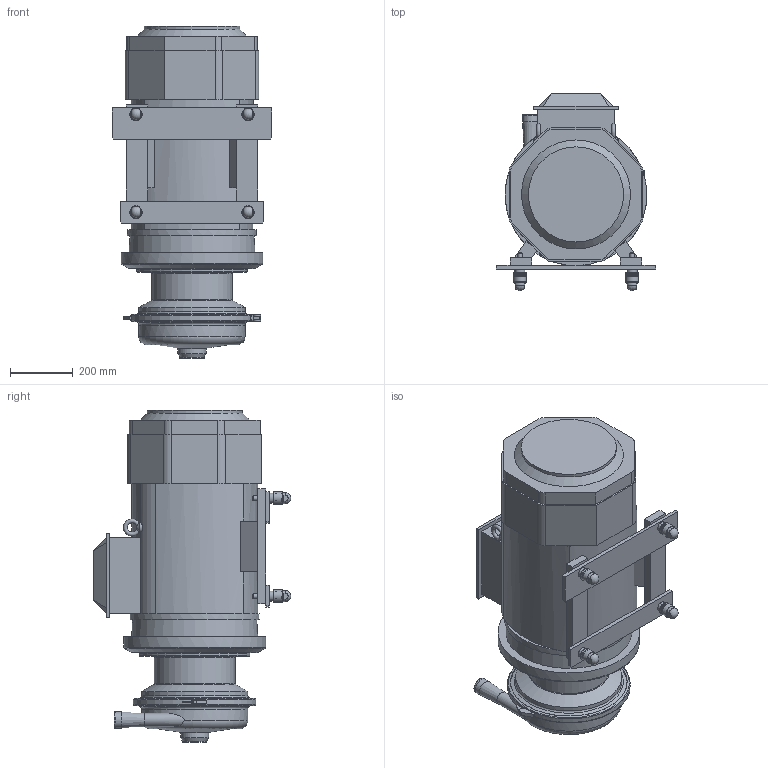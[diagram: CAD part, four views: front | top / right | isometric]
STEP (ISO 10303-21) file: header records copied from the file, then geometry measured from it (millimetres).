
FILE_DESCRIPTION((''),'2;1');
FILE_NAME('T:\_Engineering\Read Only\Products\Pumps\_W+_MODELS\# Pump_models\W+_models_assembly\W+_models_assembly\IPT\W+80-80_225(SMA2(D)-SMB2(D))_FRAME_NSRD_Shrinkwrap.ipt.step','2014-06-10T02:13:45',(''),(''),'Autodesk Inventor 2012','Autodesk Inventor 2012','');
FILE_SCHEMA(('CONFIG_CONTROL_DESIGN'));
Length unit declared in the file: millimetre
Products named in the file (1): W+80-80_225(SMA2(D)-SMB2(D))_FRAME_NSRD_Shrinkwrap
Bounding box: 506 x 626.89 x 1054 mm (x, y, z)
Volume: 130640484.3 mm3; surface area: 2643409.9 mm2
Topology: 1 solids, 7 shells, 376 faces, 890 edges, 572 vertices
Faces by surface type: plane 209, cylinder 104, cone 44, torus 15, sphere 4
Full cylindrical faces by diameter (mm): 10 x1, 14 x12, 15 x4, 18.5 x8, 32 x4, 32.4 x4, 35.4 x8, 36 x4, 40 x4, 42.6 x1, 51.6 x1, 55 x1, 72.8 x1, 76.6 x1, 89 x1, 242 x1, 250 x1, 256 x1, 302.154 x1, 320 x1, 327 x1, 337 x1, 338 x1, 350 x1, 410 x1, 450 x1
Entity records: 10753 total; most frequent: CARTESIAN_POINT 2168, DIRECTION 1752, ORIENTED_EDGE 1486, EDGE_CURVE 743, AXIS2_PLACEMENT_3D 684, EDGE_LOOP 543, VERTEX_POINT 536, VECTOR 384
